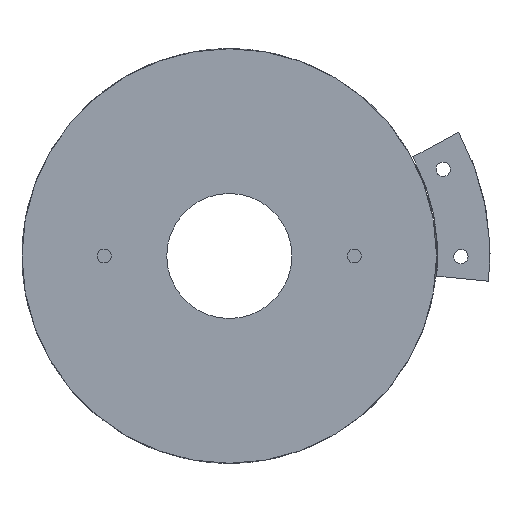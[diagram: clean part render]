
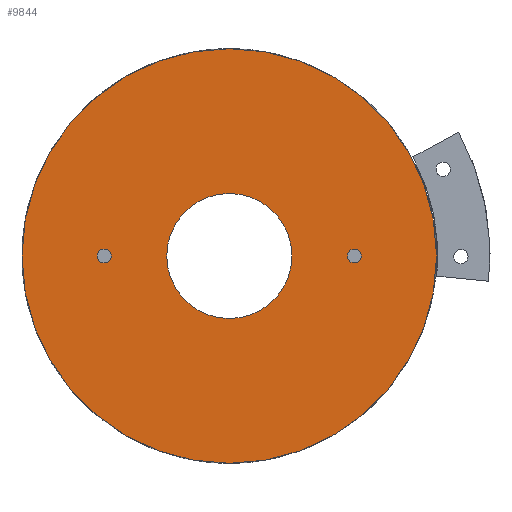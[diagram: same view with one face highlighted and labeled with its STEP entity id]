
A CAD part, front view. The second image highlights one B-rep face of the part: STEP entity #9844.
In plain terms, the highlighted planar face has unit normal (0, -1, 0).
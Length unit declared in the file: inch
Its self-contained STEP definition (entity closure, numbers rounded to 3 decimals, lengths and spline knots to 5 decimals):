
#136 = DIRECTION ( 'NONE',  ( 0., 0., 1. ) ) ;
#173 = DIRECTION ( 'NONE',  ( 0., 1., 0. ) ) ;
#213 = CARTESIAN_POINT ( 'NONE',  ( 0., 0., 0. ) ) ;
#540 = AXIS2_PLACEMENT_3D ( 'NONE', #4494, #6064, #1418 ) ;
#565 = DIRECTION ( 'NONE',  ( 0., -1., 0. ) ) ;
#629 = PLANE ( 'NONE',  #540 ) ;
#798 = VERTEX_POINT ( 'NONE', #6931 ) ;
#823 = ORIENTED_EDGE ( 'NONE', *, *, #3181, .F. ) ;
#982 = CIRCLE ( 'NONE', #9916, 3.7275 ) ;
#1014 = VERTEX_POINT ( 'NONE', #2074 ) ;
#1039 = FACE_BOUND ( 'NONE', #8229, .T. ) ;
#1353 = AXIS2_PLACEMENT_3D ( 'NONE', #6238, #3152, #6172 ) ;
#1418 = DIRECTION ( 'NONE',  ( 0., 0., 1. ) ) ;
#1822 = CARTESIAN_POINT ( 'NONE',  ( 0., 0., -1.125 ) ) ;
#2074 = CARTESIAN_POINT ( 'NONE',  ( 0., 0., 3.7275 ) ) ;
#2313 = AXIS2_PLACEMENT_3D ( 'NONE', #8203, #3513, #9008 ) ;
#2711 = AXIS2_PLACEMENT_3D ( 'NONE', #3654, #3618, #3578 ) ;
#2724 = DIRECTION ( 'NONE',  ( 0., 1., 0. ) ) ;
#2846 = FACE_BOUND ( 'NONE', #5113, .T. ) ;
#2852 = EDGE_CURVE ( 'NONE', #1014, #6425, #982, .T. ) ;
#2863 = EDGE_CURVE ( 'NONE', #798, #3395, #8794, .T. ) ;
#3152 = DIRECTION ( 'NONE',  ( 0., -1., 0. ) ) ;
#3181 = EDGE_CURVE ( 'NONE', #7121, #7344, #4733, .T. ) ;
#3347 = CARTESIAN_POINT ( 'NONE',  ( -2.25, 0., -0.125 ) ) ;
#3395 = VERTEX_POINT ( 'NONE', #3940 ) ;
#3399 = EDGE_CURVE ( 'NONE', #3395, #798, #4854, .T. ) ;
#3436 = AXIS2_PLACEMENT_3D ( 'NONE', #5224, #565, #5994 ) ;
#3513 = DIRECTION ( 'NONE',  ( 0., 1., 0. ) ) ;
#3578 = DIRECTION ( 'NONE',  ( 0., 0., -1. ) ) ;
#3618 = DIRECTION ( 'NONE',  ( 0., -1., 0. ) ) ;
#3654 = CARTESIAN_POINT ( 'NONE',  ( 2.25, 0., 0. ) ) ;
#3690 = VERTEX_POINT ( 'NONE', #1822 ) ;
#3940 = CARTESIAN_POINT ( 'NONE',  ( 2.25, 0., -0.125 ) ) ;
#4019 = CARTESIAN_POINT ( 'NONE',  ( 0., 0., 0. ) ) ;
#4027 = ORIENTED_EDGE ( 'NONE', *, *, #3399, .F. ) ;
#4281 = CIRCLE ( 'NONE', #4464, 1.125 ) ;
#4464 = AXIS2_PLACEMENT_3D ( 'NONE', #4019, #9499, #4794 ) ;
#4470 = CARTESIAN_POINT ( 'NONE',  ( -2.25, 0., 0.125 ) ) ;
#4494 = CARTESIAN_POINT ( 'NONE',  ( 0., 0., 0. ) ) ;
#4568 = EDGE_CURVE ( 'NONE', #9387, #3690, #9842, .T. ) ;
#4577 = CARTESIAN_POINT ( 'NONE',  ( 0., 0., 1.125 ) ) ;
#4733 = CIRCLE ( 'NONE', #8147, 0.125 ) ;
#4788 = ORIENTED_EDGE ( 'NONE', *, *, #5411, .T. ) ;
#4794 = DIRECTION ( 'NONE',  ( 0., 0., 1. ) ) ;
#4809 = CIRCLE ( 'NONE', #3436, 0.125 ) ;
#4854 = CIRCLE ( 'NONE', #2711, 0.125 ) ;
#4912 = ORIENTED_EDGE ( 'NONE', *, *, #2852, .F. ) ;
#4916 = FACE_BOUND ( 'NONE', #6013, .T. ) ;
#5113 = EDGE_LOOP ( 'NONE', ( #6678, #823 ) ) ;
#5224 = CARTESIAN_POINT ( 'NONE',  ( -2.25, 0., 0. ) ) ;
#5350 = EDGE_CURVE ( 'NONE', #7344, #7121, #4809, .T. ) ;
#5411 = EDGE_CURVE ( 'NONE', #3690, #9387, #4281, .T. ) ;
#5900 = EDGE_LOOP ( 'NONE', ( #6018, #4912 ) ) ;
#5994 = DIRECTION ( 'NONE',  ( 0., 0., -1. ) ) ;
#6013 = EDGE_LOOP ( 'NONE', ( #4027, #9544 ) ) ;
#6018 = ORIENTED_EDGE ( 'NONE', *, *, #9751, .F. ) ;
#6064 = DIRECTION ( 'NONE',  ( 0., 1., 0. ) ) ;
#6172 = DIRECTION ( 'NONE',  ( 0., 0., -1. ) ) ;
#6238 = CARTESIAN_POINT ( 'NONE',  ( 2.25, 0., 0. ) ) ;
#6425 = VERTEX_POINT ( 'NONE', #9736 ) ;
#6638 = CIRCLE ( 'NONE', #2313, 3.7275 ) ;
#6678 = ORIENTED_EDGE ( 'NONE', *, *, #5350, .F. ) ;
#6931 = CARTESIAN_POINT ( 'NONE',  ( 2.25, 0., 0.125 ) ) ;
#7006 = FACE_OUTER_BOUND ( 'NONE', #5900, .T. ) ;
#7121 = VERTEX_POINT ( 'NONE', #4470 ) ;
#7344 = VERTEX_POINT ( 'NONE', #3347 ) ;
#7401 = CARTESIAN_POINT ( 'NONE',  ( 0., 0., 0. ) ) ;
#8147 = AXIS2_PLACEMENT_3D ( 'NONE', #9212, #9150, #9118 ) ;
#8196 = DIRECTION ( 'NONE',  ( 0., 0., 1. ) ) ;
#8203 = CARTESIAN_POINT ( 'NONE',  ( 0., 0., 0. ) ) ;
#8223 = AXIS2_PLACEMENT_3D ( 'NONE', #7401, #2724, #8196 ) ;
#8229 = EDGE_LOOP ( 'NONE', ( #9026, #4788 ) ) ;
#8794 = CIRCLE ( 'NONE', #1353, 0.125 ) ;
#9008 = DIRECTION ( 'NONE',  ( 0., 0., 1. ) ) ;
#9026 = ORIENTED_EDGE ( 'NONE', *, *, #4568, .T. ) ;
#9118 = DIRECTION ( 'NONE',  ( 0., 0., -1. ) ) ;
#9150 = DIRECTION ( 'NONE',  ( 0., -1., 0. ) ) ;
#9212 = CARTESIAN_POINT ( 'NONE',  ( -2.25, 0., 0. ) ) ;
#9387 = VERTEX_POINT ( 'NONE', #4577 ) ;
#9499 = DIRECTION ( 'NONE',  ( 0., 1., 0. ) ) ;
#9544 = ORIENTED_EDGE ( 'NONE', *, *, #2863, .F. ) ;
#9736 = CARTESIAN_POINT ( 'NONE',  ( 0., 0., -3.7275 ) ) ;
#9751 = EDGE_CURVE ( 'NONE', #6425, #1014, #6638, .T. ) ;
#9842 = CIRCLE ( 'NONE', #8223, 1.125 ) ;
#9844 = ADVANCED_FACE ( 'NONE', ( #2846, #4916, #1039, #7006 ), #629, .F. ) ;
#9916 = AXIS2_PLACEMENT_3D ( 'NONE', #213, #173, #136 ) ;
